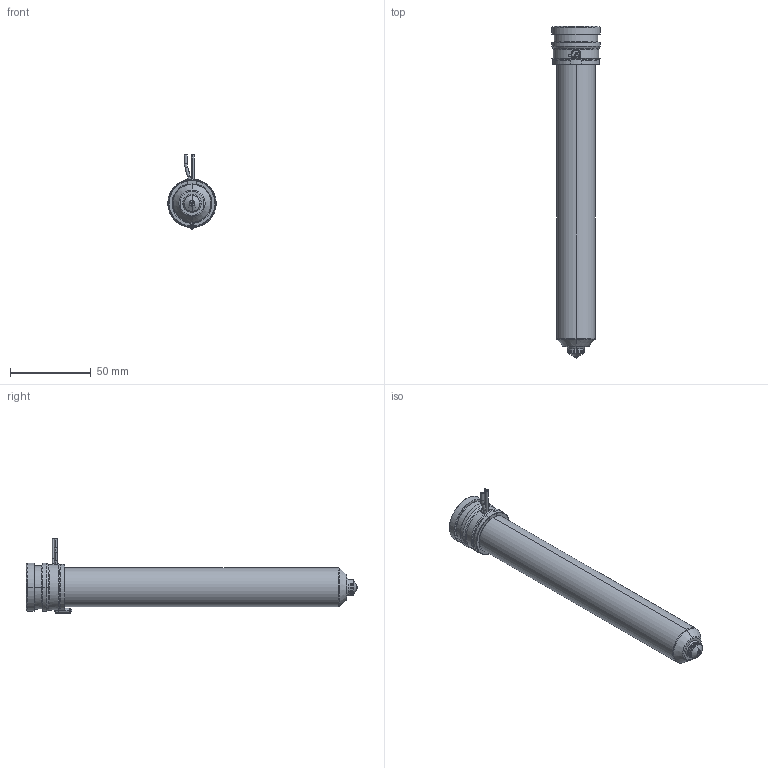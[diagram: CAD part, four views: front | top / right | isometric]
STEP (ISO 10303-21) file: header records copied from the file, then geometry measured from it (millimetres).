
FILE_DESCRIPTION((''),'2;1');
FILE_NAME('MPN-10-29-VSA10-186-A','2026-02-05T12:45:29',('UPTIO'),('Thermoplay S.p.A.'),'CREO PARAMETRIC BY PTC INC, 2023494','CREO PARAMETRIC BY PTC INC, 2023494','');
FILE_SCHEMA(('CONFIG_CONTROL_DESIGN','SHAPE_APPEARANCE_LAYERS_GROUPS'));
Length unit declared in the file: millimetre
Products named in the file (1): MPN-10-29-VSA10-186-A
Bounding box: 30 x 206 x 46 mm (x, y, z)
Volume: 63861.8 mm3; surface area: 64811.1 mm2
Topology: 2 solids, 3 shells, 556 faces, 1451 edges, 894 vertices
Faces by surface type: cylinder 184, plane 142, bspline 77, torus 70, cone 70, sphere 9, extrusion 4
Entity records: 30654 total; most frequent: CARTESIAN_POINT 14240, ORIENTED_EDGE 2890, DIRECTION 2691, EDGE_CURVE 1445, AXIS2_PLACEMENT_3D 1066, VERTEX_POINT 894, CIRCLE 590, EDGE_LOOP 585
